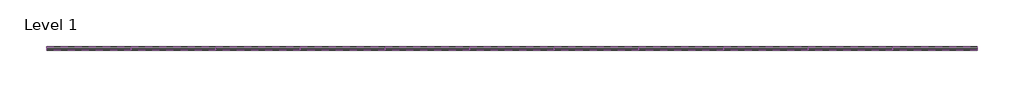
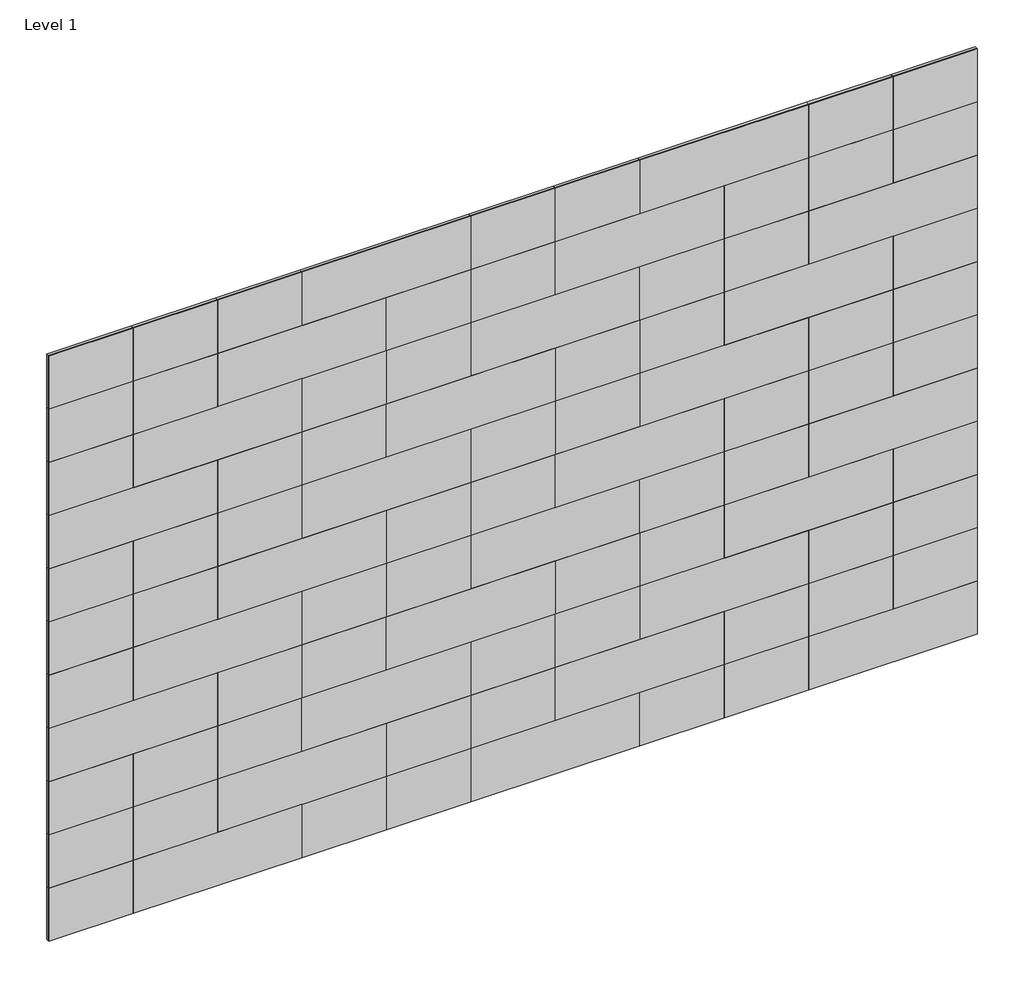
# One storey: 94 proxies.
"""IFC4 building model written with IfcOpenShell, lengths in millimetres."""

from ifc_helpers import new_model, si_unit, origin, place, context, project, spatial, transform, mapped, element, save
from components import specialty_equipment_d1af641a, specialty_equipment_1684c698

model = new_model("IFC4")

# Units and contexts
model_context = context("Model", 3, world=origin())
ifc_project = project(units=[si_unit("LENGTHUNIT", "METRE", prefix="MILLI")], contexts=[model_context])

# Site, building, storey
site = spatial("IfcSite", under=ifc_project)
building = spatial("IfcBuilding", under=site)
storey = spatial("IfcBuildingStorey", under=building, Name="Level 1", Elevation=0.0)

# Proxies
placement = place(None, origin())
specialty_equipment_shape = specialty_equipment_d1af641a(model_context)
element("IfcBuildingElementProxy", 1, Name="FilzFelt_Rectangle A_Block : Rectangle A = 2’-0” x 8” (61 x 20.3 cm)", ObjectType="FilzFelt_Rectangle A_Block : Rectangle A = 2’-0” x 8” (61 x 20.3 cm)", at=placement, inside=storey, context=model_context, shape_type="MappedRepresentation", body=[
    mapped(specialty_equipment_shape, transform((38586.9097905, 3946.8352795, 2540.0), x_axis=(1.0, 0.0, 0.0), y_axis=(0.0, 0.0, 1.0), z_axis=(0.0, -1.0, 0.0))),
])
element("IfcBuildingElementProxy", 2, Name="FilzFelt_Rectangle A_Block : Rectangle A = 2’-0” x 8” (61 x 20.3 cm)", ObjectType="FilzFelt_Rectangle A_Block : Rectangle A = 2’-0” x 8” (61 x 20.3 cm)", at=placement, inside=storey, context=model_context, shape_type="MappedRepresentation", body=[
    mapped(specialty_equipment_shape, transform((40110.9097905, 3946.8352795, 1930.4), x_axis=(1.0, 0.0, 0.0), y_axis=(0.0, 0.0, 1.0), z_axis=(0.0, -1.0, 0.0))),
])
element("IfcBuildingElementProxy", 3, Name="FilzFelt_Rectangle A_Block : Rectangle A = 2’-0” x 8” (61 x 20.3 cm)", ObjectType="FilzFelt_Rectangle A_Block : Rectangle A = 2’-0” x 8” (61 x 20.3 cm)", at=placement, inside=storey, context=model_context, shape_type="MappedRepresentation", body=[
    mapped(specialty_equipment_shape, transform((37672.5097905, 3946.8352795, 1930.4), x_axis=(1.0, 0.0, 0.0), y_axis=(0.0, 0.0, 1.0), z_axis=(0.0, -1.0, 0.0))),
])
element("IfcBuildingElementProxy", 4, Name="FilzFelt_Rectangle A_Block : Rectangle A = 2’-0” x 8” (61 x 20.3 cm)", ObjectType="FilzFelt_Rectangle A_Block : Rectangle A = 2’-0” x 8” (61 x 20.3 cm)", at=placement, inside=storey, context=model_context, shape_type="MappedRepresentation", body=[
    mapped(specialty_equipment_shape, transform((38282.1097905, 3946.8352795, 1524.0), x_axis=(1.0, 0.0, 0.0), y_axis=(0.0, 0.0, 1.0), z_axis=(0.0, -1.0, 0.0))),
])
element("IfcBuildingElementProxy", 5, Name="FilzFelt_Rectangle A_Block : Rectangle A = 2’-0” x 8” (61 x 20.3 cm)", ObjectType="FilzFelt_Rectangle A_Block : Rectangle A = 2’-0” x 8” (61 x 20.3 cm)", at=placement, inside=storey, context=model_context, shape_type="MappedRepresentation", body=[
    mapped(specialty_equipment_shape, transform((40110.9097905, 3946.8352795, 1117.6), x_axis=(1.0, 0.0, 0.0), y_axis=(0.0, 0.0, 1.0), z_axis=(0.0, -1.0, 0.0))),
])
element("IfcBuildingElementProxy", 6, Name="FilzFelt_Rectangle A_Block : Rectangle A = 2’-0” x 8” (61 x 20.3 cm)", ObjectType="FilzFelt_Rectangle A_Block : Rectangle A = 2’-0” x 8” (61 x 20.3 cm)", at=placement, inside=storey, context=model_context, shape_type="MappedRepresentation", body=[
    mapped(specialty_equipment_shape, transform((38282.1097905, 3946.8352795, 711.2), x_axis=(1.0, 0.0, 0.0), y_axis=(0.0, 0.0, 1.0), z_axis=(0.0, -1.0, 0.0))),
])
specialty_equipment_2_shape = specialty_equipment_1684c698(model_context)
element("IfcBuildingElementProxy", 7, Name="FilzFelt_Rectangle B_Block : Rectangle B = 1’-0” x 8” (30.5 x 20.3 cm)", ObjectType="FilzFelt_Rectangle B_Block : Rectangle B = 1’-0” x 8” (30.5 x 20.3 cm)", at=placement, inside=storey, context=model_context, shape_type="MappedRepresentation", body=[
    mapped(specialty_equipment_2_shape, transform((39348.9097905, 3946.8352795, 2540.0), x_axis=(1.0, 0.0, 0.0), y_axis=(0.0, 0.0, 1.0), z_axis=(0.0, -1.0, 0.0))),
])
element("IfcBuildingElementProxy", 8, Name="FilzFelt_Rectangle B_Block : Rectangle B = 1’-0” x 8” (30.5 x 20.3 cm)", ObjectType="FilzFelt_Rectangle B_Block : Rectangle B = 1’-0” x 8” (30.5 x 20.3 cm)", at=placement, inside=storey, context=model_context, shape_type="MappedRepresentation", body=[
    mapped(specialty_equipment_2_shape, transform((37824.9097905, 3946.8352795, 2540.0), x_axis=(1.0, 0.0, 0.0), y_axis=(0.0, 0.0, 1.0), z_axis=(0.0, -1.0, 0.0))),
])
element("IfcBuildingElementProxy", 9, Name="FilzFelt_Rectangle B_Block : Rectangle B = 1’-0” x 8” (30.5 x 20.3 cm)", ObjectType="FilzFelt_Rectangle B_Block : Rectangle B = 1’-0” x 8” (30.5 x 20.3 cm)", at=placement, inside=storey, context=model_context, shape_type="MappedRepresentation", body=[
    mapped(specialty_equipment_2_shape, transform((40568.1097905, 3946.8352795, 2336.8), x_axis=(1.0, 0.0, 0.0), y_axis=(0.0, 0.0, 1.0), z_axis=(0.0, -1.0, 0.0))),
])
element("IfcBuildingElementProxy", 10, Name="FilzFelt_Rectangle B_Block : Rectangle B = 1’-0” x 8” (30.5 x 20.3 cm)", ObjectType="FilzFelt_Rectangle B_Block : Rectangle B = 1’-0” x 8” (30.5 x 20.3 cm)", at=placement, inside=storey, context=model_context, shape_type="MappedRepresentation", body=[
    mapped(specialty_equipment_2_shape, transform((39958.5097905, 3946.8352795, 2336.8), x_axis=(1.0, 0.0, 0.0), y_axis=(0.0, 0.0, 1.0), z_axis=(0.0, -1.0, 0.0))),
])
element("IfcBuildingElementProxy", 11, Name="FilzFelt_Rectangle B_Block : Rectangle B = 1’-0” x 8” (30.5 x 20.3 cm)", ObjectType="FilzFelt_Rectangle B_Block : Rectangle B = 1’-0” x 8” (30.5 x 20.3 cm)", at=placement, inside=storey, context=model_context, shape_type="MappedRepresentation", body=[
    mapped(specialty_equipment_2_shape, transform((39044.1097905, 3946.8352795, 2336.8), x_axis=(1.0, 0.0, 0.0), y_axis=(0.0, 0.0, 1.0), z_axis=(0.0, -1.0, 0.0))),
])
element("IfcBuildingElementProxy", 12, Name="FilzFelt_Rectangle B_Block : Rectangle B = 1’-0” x 8” (30.5 x 20.3 cm)", ObjectType="FilzFelt_Rectangle B_Block : Rectangle B = 1’-0” x 8” (30.5 x 20.3 cm)", at=placement, inside=storey, context=model_context, shape_type="MappedRepresentation", body=[
    mapped(specialty_equipment_2_shape, transform((37520.1097905, 3946.8352795, 2336.8), x_axis=(1.0, 0.0, 0.0), y_axis=(0.0, 0.0, 1.0), z_axis=(0.0, -1.0, 0.0))),
])
element("IfcBuildingElementProxy", 13, Name="FilzFelt_Rectangle B_Block : Rectangle B = 1’-0” x 8” (30.5 x 20.3 cm)", ObjectType="FilzFelt_Rectangle B_Block : Rectangle B = 1’-0” x 8” (30.5 x 20.3 cm)", at=placement, inside=storey, context=model_context, shape_type="MappedRepresentation", body=[
    mapped(specialty_equipment_2_shape, transform((38739.3097905, 3946.8352795, 2133.6), x_axis=(1.0, 0.0, 0.0), y_axis=(0.0, 0.0, 1.0), z_axis=(0.0, -1.0, 0.0))),
])
element("IfcBuildingElementProxy", 14, Name="FilzFelt_Rectangle B_Block : Rectangle B = 1’-0” x 8” (30.5 x 20.3 cm)", ObjectType="FilzFelt_Rectangle B_Block : Rectangle B = 1’-0” x 8” (30.5 x 20.3 cm)", at=placement, inside=storey, context=model_context, shape_type="MappedRepresentation", body=[
    mapped(specialty_equipment_2_shape, transform((40263.3097905, 3946.8352795, 2540.0), x_axis=(1.0, 0.0, 0.0), y_axis=(0.0, 0.0, 1.0), z_axis=(0.0, -1.0, 0.0))),
])
element("IfcBuildingElementProxy", 15, Name="FilzFelt_Rectangle B_Block : Rectangle B = 1’-0” x 8” (30.5 x 20.3 cm)", ObjectType="FilzFelt_Rectangle B_Block : Rectangle B = 1’-0” x 8” (30.5 x 20.3 cm)", at=placement, inside=storey, context=model_context, shape_type="MappedRepresentation", body=[
    mapped(specialty_equipment_2_shape, transform((39348.9097905, 3946.8352795, 1930.4), x_axis=(1.0, 0.0, 0.0), y_axis=(0.0, 0.0, 1.0), z_axis=(0.0, -1.0, 0.0))),
])
element("IfcBuildingElementProxy", 16, Name="FilzFelt_Rectangle B_Block : Rectangle B = 1’-0” x 8” (30.5 x 20.3 cm)", ObjectType="FilzFelt_Rectangle B_Block : Rectangle B = 1’-0” x 8” (30.5 x 20.3 cm)", at=placement, inside=storey, context=model_context, shape_type="MappedRepresentation", body=[
    mapped(specialty_equipment_2_shape, transform((38434.5097905, 3946.8352795, 1930.4), x_axis=(1.0, 0.0, 0.0), y_axis=(0.0, 0.0, 1.0), z_axis=(0.0, -1.0, 0.0))),
])
element("IfcBuildingElementProxy", 17, Name="FilzFelt_Rectangle B_Block : Rectangle B = 1’-0” x 8” (30.5 x 20.3 cm)", ObjectType="FilzFelt_Rectangle B_Block : Rectangle B = 1’-0” x 8” (30.5 x 20.3 cm)", at=placement, inside=storey, context=model_context, shape_type="MappedRepresentation", body=[
    mapped(specialty_equipment_2_shape, transform((39044.1097905, 3946.8352795, 1727.2), x_axis=(1.0, 0.0, 0.0), y_axis=(0.0, 0.0, 1.0), z_axis=(0.0, -1.0, 0.0))),
])
element("IfcBuildingElementProxy", 18, Name="FilzFelt_Rectangle B_Block : Rectangle B = 1’-0” x 8” (30.5 x 20.3 cm)", ObjectType="FilzFelt_Rectangle B_Block : Rectangle B = 1’-0” x 8” (30.5 x 20.3 cm)", at=placement, inside=storey, context=model_context, shape_type="MappedRepresentation", body=[
    mapped(specialty_equipment_2_shape, transform((40568.1097905, 3946.8352795, 1524.0), x_axis=(1.0, 0.0, 0.0), y_axis=(0.0, 0.0, 1.0), z_axis=(0.0, -1.0, 0.0))),
])
element("IfcBuildingElementProxy", 19, Name="FilzFelt_Rectangle B_Block : Rectangle B = 1’-0” x 8” (30.5 x 20.3 cm)", ObjectType="FilzFelt_Rectangle B_Block : Rectangle B = 1’-0” x 8” (30.5 x 20.3 cm)", at=placement, inside=storey, context=model_context, shape_type="MappedRepresentation", body=[
    mapped(specialty_equipment_2_shape, transform((38739.3097905, 3946.8352795, 1320.8), x_axis=(1.0, 0.0, 0.0), y_axis=(0.0, 0.0, 1.0), z_axis=(0.0, -1.0, 0.0))),
])
element("IfcBuildingElementProxy", 20, Name="FilzFelt_Rectangle B_Block : Rectangle B = 1’-0” x 8” (30.5 x 20.3 cm)", ObjectType="FilzFelt_Rectangle B_Block : Rectangle B = 1’-0” x 8” (30.5 x 20.3 cm)", at=placement, inside=storey, context=model_context, shape_type="MappedRepresentation", body=[
    mapped(specialty_equipment_2_shape, transform((39958.5097905, 3946.8352795, 1320.8), x_axis=(1.0, 0.0, 0.0), y_axis=(0.0, 0.0, 1.0), z_axis=(0.0, -1.0, 0.0))),
])
element("IfcBuildingElementProxy", 21, Name="FilzFelt_Rectangle B_Block : Rectangle B = 1’-0” x 8” (30.5 x 20.3 cm)", ObjectType="FilzFelt_Rectangle B_Block : Rectangle B = 1’-0” x 8” (30.5 x 20.3 cm)", at=placement, inside=storey, context=model_context, shape_type="MappedRepresentation", body=[
    mapped(specialty_equipment_2_shape, transform((39044.1097905, 3946.8352795, 1524.0), x_axis=(1.0, 0.0, 0.0), y_axis=(0.0, 0.0, 1.0), z_axis=(0.0, -1.0, 0.0))),
])
element("IfcBuildingElementProxy", 22, Name="FilzFelt_Rectangle B_Block : Rectangle B = 1’-0” x 8” (30.5 x 20.3 cm)", ObjectType="FilzFelt_Rectangle B_Block : Rectangle B = 1’-0” x 8” (30.5 x 20.3 cm)", at=placement, inside=storey, context=model_context, shape_type="MappedRepresentation", body=[
    mapped(specialty_equipment_2_shape, transform((37520.1097905, 3946.8352795, 1524.0), x_axis=(1.0, 0.0, 0.0), y_axis=(0.0, 0.0, 1.0), z_axis=(0.0, -1.0, 0.0))),
])
element("IfcBuildingElementProxy", 23, Name="FilzFelt_Rectangle B_Block : Rectangle B = 1’-0” x 8” (30.5 x 20.3 cm)", ObjectType="FilzFelt_Rectangle B_Block : Rectangle B = 1’-0” x 8” (30.5 x 20.3 cm)", at=placement, inside=storey, context=model_context, shape_type="MappedRepresentation", body=[
    mapped(specialty_equipment_2_shape, transform((39653.7097905, 3946.8352795, 1117.6), x_axis=(1.0, 0.0, 0.0), y_axis=(0.0, 0.0, 1.0), z_axis=(0.0, -1.0, 0.0))),
])
element("IfcBuildingElementProxy", 24, Name="FilzFelt_Rectangle B_Block : Rectangle B = 1’-0” x 8” (30.5 x 20.3 cm)", ObjectType="FilzFelt_Rectangle B_Block : Rectangle B = 1’-0” x 8” (30.5 x 20.3 cm)", at=placement, inside=storey, context=model_context, shape_type="MappedRepresentation", body=[
    mapped(specialty_equipment_2_shape, transform((38434.5097905, 3946.8352795, 1117.6), x_axis=(1.0, 0.0, 0.0), y_axis=(0.0, 0.0, 1.0), z_axis=(0.0, -1.0, 0.0))),
])
element("IfcBuildingElementProxy", 25, Name="FilzFelt_Rectangle B_Block : Rectangle B = 1’-0” x 8” (30.5 x 20.3 cm)", ObjectType="FilzFelt_Rectangle B_Block : Rectangle B = 1’-0” x 8” (30.5 x 20.3 cm)", at=placement, inside=storey, context=model_context, shape_type="MappedRepresentation", body=[
    mapped(specialty_equipment_2_shape, transform((39348.9097905, 3946.8352795, 914.4), x_axis=(1.0, 0.0, 0.0), y_axis=(0.0, 0.0, 1.0), z_axis=(0.0, -1.0, 0.0))),
])
element("IfcBuildingElementProxy", 26, Name="FilzFelt_Rectangle B_Block : Rectangle B = 1’-0” x 8” (30.5 x 20.3 cm)", ObjectType="FilzFelt_Rectangle B_Block : Rectangle B = 1’-0” x 8” (30.5 x 20.3 cm)", at=placement, inside=storey, context=model_context, shape_type="MappedRepresentation", body=[
    mapped(specialty_equipment_2_shape, transform((37824.9097905, 3946.8352795, 914.4), x_axis=(1.0, 0.0, 0.0), y_axis=(0.0, 0.0, 1.0), z_axis=(0.0, -1.0, 0.0))),
])
element("IfcBuildingElementProxy", 27, Name="FilzFelt_Rectangle B_Block : Rectangle B = 1’-0” x 8” (30.5 x 20.3 cm)", ObjectType="FilzFelt_Rectangle B_Block : Rectangle B = 1’-0” x 8” (30.5 x 20.3 cm)", at=placement, inside=storey, context=model_context, shape_type="MappedRepresentation", body=[
    mapped(specialty_equipment_2_shape, transform((40568.1097905, 3946.8352795, 914.4), x_axis=(1.0, 0.0, 0.0), y_axis=(0.0, 0.0, 1.0), z_axis=(0.0, -1.0, 0.0))),
])
element("IfcBuildingElementProxy", 28, Name="FilzFelt_Rectangle B_Block : Rectangle B = 1’-0” x 8” (30.5 x 20.3 cm)", ObjectType="FilzFelt_Rectangle B_Block : Rectangle B = 1’-0” x 8” (30.5 x 20.3 cm)", at=placement, inside=storey, context=model_context, shape_type="MappedRepresentation", body=[
    mapped(specialty_equipment_2_shape, transform((40263.3097905, 3946.8352795, 711.2), x_axis=(1.0, 0.0, 0.0), y_axis=(0.0, 0.0, 1.0), z_axis=(0.0, -1.0, 0.0))),
])
element("IfcBuildingElementProxy", 29, Name="FilzFelt_Rectangle B_Block : Rectangle B = 1’-0” x 8” (30.5 x 20.3 cm)", ObjectType="FilzFelt_Rectangle B_Block : Rectangle B = 1’-0” x 8” (30.5 x 20.3 cm)", at=placement, inside=storey, context=model_context, shape_type="MappedRepresentation", body=[
    mapped(specialty_equipment_2_shape, transform((39958.5097905, 3946.8352795, 711.2), x_axis=(1.0, 0.0, 0.0), y_axis=(0.0, 0.0, 1.0), z_axis=(0.0, -1.0, 0.0))),
])
element("IfcBuildingElementProxy", 30, Name="FilzFelt_Rectangle B_Block : Rectangle B = 1’-0” x 8” (30.5 x 20.3 cm)", ObjectType="FilzFelt_Rectangle B_Block : Rectangle B = 1’-0” x 8” (30.5 x 20.3 cm)", at=placement, inside=storey, context=model_context, shape_type="MappedRepresentation", body=[
    mapped(specialty_equipment_2_shape, transform((39044.1097905, 3946.8352795, 711.2), x_axis=(1.0, 0.0, 0.0), y_axis=(0.0, 0.0, 1.0), z_axis=(0.0, -1.0, 0.0))),
])
element("IfcBuildingElementProxy", 31, Name="FilzFelt_Rectangle B_Block : Rectangle B = 1’-0” x 8” (30.5 x 20.3 cm)", ObjectType="FilzFelt_Rectangle B_Block : Rectangle B = 1’-0” x 8” (30.5 x 20.3 cm)", at=placement, inside=storey, context=model_context, shape_type="MappedRepresentation", body=[
    mapped(specialty_equipment_2_shape, transform((37520.1097905, 3946.8352795, 711.2), x_axis=(1.0, 0.0, 0.0), y_axis=(0.0, 0.0, 1.0), z_axis=(0.0, -1.0, 0.0))),
])
element("IfcBuildingElementProxy", 32, Name="FilzFelt_Rectangle B_Block : Rectangle B = 1’-0” x 8” (30.5 x 20.3 cm)", ObjectType="FilzFelt_Rectangle B_Block : Rectangle B = 1’-0” x 8” (30.5 x 20.3 cm)", at=placement, inside=storey, context=model_context, shape_type="MappedRepresentation", body=[
    mapped(specialty_equipment_2_shape, transform((38739.3097905, 3946.8352795, 508.0), x_axis=(1.0, 0.0, 0.0), y_axis=(0.0, 0.0, 1.0), z_axis=(0.0, -1.0, 0.0))),
])
element("IfcBuildingElementProxy", 33, Name="FilzFelt_Rectangle B_Block : Rectangle B = 1’-0” x 8” (30.5 x 20.3 cm)", ObjectType="FilzFelt_Rectangle B_Block : Rectangle B = 1’-0” x 8” (30.5 x 20.3 cm)", at=placement, inside=storey, context=model_context, shape_type="MappedRepresentation", body=[
    mapped(specialty_equipment_2_shape, transform((39653.7097905, 3946.8352795, 508.0), x_axis=(1.0, 0.0, 0.0), y_axis=(0.0, 0.0, 1.0), z_axis=(0.0, -1.0, 0.0))),
])
element("IfcBuildingElementProxy", 34, Name="FilzFelt_Rectangle B_Block : Rectangle B = 1’-0” x 8” (30.5 x 20.3 cm)", ObjectType="FilzFelt_Rectangle B_Block : Rectangle B = 1’-0” x 8” (30.5 x 20.3 cm)", at=placement, inside=storey, context=model_context, shape_type="MappedRepresentation", body=[
    mapped(specialty_equipment_2_shape, transform((38129.7097905, 3946.8352795, 2540.0), x_axis=(1.0, 0.0, 0.0), y_axis=(0.0, 0.0, 1.0), z_axis=(0.0, -1.0, 0.0))),
])
element("IfcBuildingElementProxy", 35, Name="FilzFelt_Rectangle B_Block : Rectangle B = 1’-0” x 8” (30.5 x 20.3 cm)", ObjectType="FilzFelt_Rectangle B_Block : Rectangle B = 1’-0” x 8” (30.5 x 20.3 cm)", at=placement, inside=storey, context=model_context, shape_type="MappedRepresentation", body=[
    mapped(specialty_equipment_2_shape, transform((40568.1097905, 3946.8352795, 2540.0), x_axis=(1.0, 0.0, 0.0), y_axis=(0.0, 0.0, 1.0), z_axis=(0.0, -1.0, 0.0))),
])
element("IfcBuildingElementProxy", 36, Name="FilzFelt_Rectangle B_Block : Rectangle B = 1’-0” x 8” (30.5 x 20.3 cm)", ObjectType="FilzFelt_Rectangle B_Block : Rectangle B = 1’-0” x 8” (30.5 x 20.3 cm)", at=placement, inside=storey, context=model_context, shape_type="MappedRepresentation", body=[
    mapped(specialty_equipment_2_shape, transform((39044.1097905, 3946.8352795, 2540.0), x_axis=(1.0, 0.0, 0.0), y_axis=(0.0, 0.0, 1.0), z_axis=(0.0, -1.0, 0.0))),
])
element("IfcBuildingElementProxy", 37, Name="FilzFelt_Rectangle B_Block : Rectangle B = 1’-0” x 8” (30.5 x 20.3 cm)", ObjectType="FilzFelt_Rectangle B_Block : Rectangle B = 1’-0” x 8” (30.5 x 20.3 cm)", at=placement, inside=storey, context=model_context, shape_type="MappedRepresentation", body=[
    mapped(specialty_equipment_2_shape, transform((37520.1097905, 3946.8352795, 2133.6), x_axis=(1.0, 0.0, 0.0), y_axis=(0.0, 0.0, 1.0), z_axis=(0.0, -1.0, 0.0))),
])
element("IfcBuildingElementProxy", 38, Name="FilzFelt_Rectangle B_Block : Rectangle B = 1’-0” x 8” (30.5 x 20.3 cm)", ObjectType="FilzFelt_Rectangle B_Block : Rectangle B = 1’-0” x 8” (30.5 x 20.3 cm)", at=placement, inside=storey, context=model_context, shape_type="MappedRepresentation", body=[
    mapped(specialty_equipment_2_shape, transform((38434.5097905, 3946.8352795, 2133.6), x_axis=(1.0, 0.0, 0.0), y_axis=(0.0, 0.0, 1.0), z_axis=(0.0, -1.0, 0.0))),
])
element("IfcBuildingElementProxy", 39, Name="FilzFelt_Rectangle B_Block : Rectangle B = 1’-0” x 8” (30.5 x 20.3 cm)", ObjectType="FilzFelt_Rectangle B_Block : Rectangle B = 1’-0” x 8” (30.5 x 20.3 cm)", at=placement, inside=storey, context=model_context, shape_type="MappedRepresentation", body=[
    mapped(specialty_equipment_2_shape, transform((39958.5097905, 3946.8352795, 2133.6), x_axis=(1.0, 0.0, 0.0), y_axis=(0.0, 0.0, 1.0), z_axis=(0.0, -1.0, 0.0))),
])
element("IfcBuildingElementProxy", 40, Name="FilzFelt_Rectangle B_Block : Rectangle B = 1’-0” x 8” (30.5 x 20.3 cm)", ObjectType="FilzFelt_Rectangle B_Block : Rectangle B = 1’-0” x 8” (30.5 x 20.3 cm)", at=placement, inside=storey, context=model_context, shape_type="MappedRepresentation", body=[
    mapped(specialty_equipment_2_shape, transform((40568.1097905, 3946.8352795, 1930.4), x_axis=(1.0, 0.0, 0.0), y_axis=(0.0, 0.0, 1.0), z_axis=(0.0, -1.0, 0.0))),
])
element("IfcBuildingElementProxy", 41, Name="FilzFelt_Rectangle B_Block : Rectangle B = 1’-0” x 8” (30.5 x 20.3 cm)", ObjectType="FilzFelt_Rectangle B_Block : Rectangle B = 1’-0” x 8” (30.5 x 20.3 cm)", at=placement, inside=storey, context=model_context, shape_type="MappedRepresentation", body=[
    mapped(specialty_equipment_2_shape, transform((38129.7097905, 3946.8352795, 1930.4), x_axis=(1.0, 0.0, 0.0), y_axis=(0.0, 0.0, 1.0), z_axis=(0.0, -1.0, 0.0))),
])
element("IfcBuildingElementProxy", 42, Name="FilzFelt_Rectangle B_Block : Rectangle B = 1’-0” x 8” (30.5 x 20.3 cm)", ObjectType="FilzFelt_Rectangle B_Block : Rectangle B = 1’-0” x 8” (30.5 x 20.3 cm)", at=placement, inside=storey, context=model_context, shape_type="MappedRepresentation", body=[
    mapped(specialty_equipment_2_shape, transform((39958.5097905, 3946.8352795, 1524.0), x_axis=(1.0, 0.0, 0.0), y_axis=(0.0, 0.0, 1.0), z_axis=(0.0, -1.0, 0.0))),
])
element("IfcBuildingElementProxy", 43, Name="FilzFelt_Rectangle B_Block : Rectangle B = 1’-0” x 8” (30.5 x 20.3 cm)", ObjectType="FilzFelt_Rectangle B_Block : Rectangle B = 1’-0” x 8” (30.5 x 20.3 cm)", at=placement, inside=storey, context=model_context, shape_type="MappedRepresentation", body=[
    mapped(specialty_equipment_2_shape, transform((37824.9097905, 3946.8352795, 1524.0), x_axis=(1.0, 0.0, 0.0), y_axis=(0.0, 0.0, 1.0), z_axis=(0.0, -1.0, 0.0))),
])
element("IfcBuildingElementProxy", 44, Name="FilzFelt_Rectangle B_Block : Rectangle B = 1’-0” x 8” (30.5 x 20.3 cm)", ObjectType="FilzFelt_Rectangle B_Block : Rectangle B = 1’-0” x 8” (30.5 x 20.3 cm)", at=placement, inside=storey, context=model_context, shape_type="MappedRepresentation", body=[
    mapped(specialty_equipment_2_shape, transform((39348.9097905, 3946.8352795, 1117.6), x_axis=(1.0, 0.0, 0.0), y_axis=(0.0, 0.0, 1.0), z_axis=(0.0, -1.0, 0.0))),
])
element("IfcBuildingElementProxy", 45, Name="FilzFelt_Rectangle B_Block : Rectangle B = 1’-0” x 8” (30.5 x 20.3 cm)", ObjectType="FilzFelt_Rectangle B_Block : Rectangle B = 1’-0” x 8” (30.5 x 20.3 cm)", at=placement, inside=storey, context=model_context, shape_type="MappedRepresentation", body=[
    mapped(specialty_equipment_2_shape, transform((40263.3097905, 3946.8352795, 914.4), x_axis=(1.0, 0.0, 0.0), y_axis=(0.0, 0.0, 1.0), z_axis=(0.0, -1.0, 0.0))),
])
element("IfcBuildingElementProxy", 46, Name="FilzFelt_Rectangle B_Block : Rectangle B = 1’-0” x 8” (30.5 x 20.3 cm)", ObjectType="FilzFelt_Rectangle B_Block : Rectangle B = 1’-0” x 8” (30.5 x 20.3 cm)", at=placement, inside=storey, context=model_context, shape_type="MappedRepresentation", body=[
    mapped(specialty_equipment_2_shape, transform((37824.9097905, 3946.8352795, 711.2), x_axis=(1.0, 0.0, 0.0), y_axis=(0.0, 0.0, 1.0), z_axis=(0.0, -1.0, 0.0))),
])
element("IfcBuildingElementProxy", 47, Name="FilzFelt_Rectangle B_Block : Rectangle B = 1’-0” x 8” (30.5 x 20.3 cm)", ObjectType="FilzFelt_Rectangle B_Block : Rectangle B = 1’-0” x 8” (30.5 x 20.3 cm)", at=placement, inside=storey, context=model_context, shape_type="MappedRepresentation", body=[
    mapped(specialty_equipment_2_shape, transform((38434.5097905, 3946.8352795, 508.0), x_axis=(1.0, 0.0, 0.0), y_axis=(0.0, 0.0, 1.0), z_axis=(0.0, -1.0, 0.0))),
])
element("IfcBuildingElementProxy", 48, Name="FilzFelt_Rectangle B_Block : Rectangle B = 1’-0” x 8” (30.5 x 20.3 cm)", ObjectType="FilzFelt_Rectangle B_Block : Rectangle B = 1’-0” x 8” (30.5 x 20.3 cm)", at=placement, inside=storey, context=model_context, shape_type="MappedRepresentation", body=[
    mapped(specialty_equipment_2_shape, transform((39958.5097905, 3946.8352795, 508.0), x_axis=(1.0, 0.0, 0.0), y_axis=(0.0, 0.0, 1.0), z_axis=(0.0, -1.0, 0.0))),
])
element("IfcBuildingElementProxy", 49, Name="FilzFelt_Rectangle A_Block : Rectangle A = 2’-0” x 8” (61 x 20.3 cm)", ObjectType="FilzFelt_Rectangle A_Block : Rectangle A = 2’-0” x 8” (61 x 20.3 cm)", at=placement, inside=storey, context=model_context, shape_type="MappedRepresentation", body=[
    mapped(specialty_equipment_shape, transform((38282.1097905, 3946.8352795, 2336.8), x_axis=(1.0, 0.0, 0.0), y_axis=(0.0, 0.0, 1.0), z_axis=(0.0, -1.0, 0.0))),
])
element("IfcBuildingElementProxy", 50, Name="FilzFelt_Rectangle A_Block : Rectangle A = 2’-0” x 8” (61 x 20.3 cm)", ObjectType="FilzFelt_Rectangle A_Block : Rectangle A = 2’-0” x 8” (61 x 20.3 cm)", at=placement, inside=storey, context=model_context, shape_type="MappedRepresentation", body=[
    mapped(specialty_equipment_shape, transform((39196.5097905, 3946.8352795, 2133.6), x_axis=(1.0, 0.0, 0.0), y_axis=(0.0, 0.0, 1.0), z_axis=(0.0, -1.0, 0.0))),
])
element("IfcBuildingElementProxy", 51, Name="FilzFelt_Rectangle A_Block : Rectangle A = 2’-0” x 8” (61 x 20.3 cm)", ObjectType="FilzFelt_Rectangle A_Block : Rectangle A = 2’-0” x 8” (61 x 20.3 cm)", at=placement, inside=storey, context=model_context, shape_type="MappedRepresentation", body=[
    mapped(specialty_equipment_shape, transform((38586.9097905, 3946.8352795, 1727.2), x_axis=(1.0, 0.0, 0.0), y_axis=(0.0, 0.0, 1.0), z_axis=(0.0, -1.0, 0.0))),
])
element("IfcBuildingElementProxy", 52, Name="FilzFelt_Rectangle A_Block : Rectangle A = 2’-0” x 8” (61 x 20.3 cm)", ObjectType="FilzFelt_Rectangle A_Block : Rectangle A = 2’-0” x 8” (61 x 20.3 cm)", at=placement, inside=storey, context=model_context, shape_type="MappedRepresentation", body=[
    mapped(specialty_equipment_shape, transform((39806.1097905, 3946.8352795, 1727.2), x_axis=(1.0, 0.0, 0.0), y_axis=(0.0, 0.0, 1.0), z_axis=(0.0, -1.0, 0.0))),
])
element("IfcBuildingElementProxy", 53, Name="FilzFelt_Rectangle A_Block : Rectangle A = 2’-0” x 8” (61 x 20.3 cm)", ObjectType="FilzFelt_Rectangle A_Block : Rectangle A = 2’-0” x 8” (61 x 20.3 cm)", at=placement, inside=storey, context=model_context, shape_type="MappedRepresentation", body=[
    mapped(specialty_equipment_shape, transform((37977.3097905, 3946.8352795, 1320.8), x_axis=(1.0, 0.0, 0.0), y_axis=(0.0, 0.0, 1.0), z_axis=(0.0, -1.0, 0.0))),
])
element("IfcBuildingElementProxy", 54, Name="FilzFelt_Rectangle A_Block : Rectangle A = 2’-0” x 8” (61 x 20.3 cm)", ObjectType="FilzFelt_Rectangle A_Block : Rectangle A = 2’-0” x 8” (61 x 20.3 cm)", at=placement, inside=storey, context=model_context, shape_type="MappedRepresentation", body=[
    mapped(specialty_equipment_shape, transform((40415.7097905, 3946.8352795, 1320.8), x_axis=(1.0, 0.0, 0.0), y_axis=(0.0, 0.0, 1.0), z_axis=(0.0, -1.0, 0.0))),
])
element("IfcBuildingElementProxy", 55, Name="FilzFelt_Rectangle A_Block : Rectangle A = 2’-0” x 8” (61 x 20.3 cm)", ObjectType="FilzFelt_Rectangle A_Block : Rectangle A = 2’-0” x 8” (61 x 20.3 cm)", at=placement, inside=storey, context=model_context, shape_type="MappedRepresentation", body=[
    mapped(specialty_equipment_shape, transform((38586.9097905, 3946.8352795, 914.4), x_axis=(1.0, 0.0, 0.0), y_axis=(0.0, 0.0, 1.0), z_axis=(0.0, -1.0, 0.0))),
])
element("IfcBuildingElementProxy", 56, Name="FilzFelt_Rectangle A_Block : Rectangle A = 2’-0” x 8” (61 x 20.3 cm)", ObjectType="FilzFelt_Rectangle A_Block : Rectangle A = 2’-0” x 8” (61 x 20.3 cm)", at=placement, inside=storey, context=model_context, shape_type="MappedRepresentation", body=[
    mapped(specialty_equipment_shape, transform((39501.3097905, 3946.8352795, 711.2), x_axis=(1.0, 0.0, 0.0), y_axis=(0.0, 0.0, 1.0), z_axis=(0.0, -1.0, 0.0))),
])
element("IfcBuildingElementProxy", 57, Name="FilzFelt_Rectangle A_Block : Rectangle A = 2’-0” x 8” (61 x 20.3 cm)", ObjectType="FilzFelt_Rectangle A_Block : Rectangle A = 2’-0” x 8” (61 x 20.3 cm)", at=placement, inside=storey, context=model_context, shape_type="MappedRepresentation", body=[
    mapped(specialty_equipment_shape, transform((39806.1097905, 3946.8352795, 2540.0), x_axis=(1.0, 0.0, 0.0), y_axis=(0.0, 0.0, 1.0), z_axis=(0.0, -1.0, 0.0))),
])
element("IfcBuildingElementProxy", 58, Name="FilzFelt_Rectangle A_Block : Rectangle A = 2’-0” x 8” (61 x 20.3 cm)", ObjectType="FilzFelt_Rectangle A_Block : Rectangle A = 2’-0” x 8” (61 x 20.3 cm)", at=placement, inside=storey, context=model_context, shape_type="MappedRepresentation", body=[
    mapped(specialty_equipment_shape, transform((40415.7097905, 3946.8352795, 2133.6), x_axis=(1.0, 0.0, 0.0), y_axis=(0.0, 0.0, 1.0), z_axis=(0.0, -1.0, 0.0))),
])
element("IfcBuildingElementProxy", 59, Name="FilzFelt_Rectangle A_Block : Rectangle A = 2’-0” x 8” (61 x 20.3 cm)", ObjectType="FilzFelt_Rectangle A_Block : Rectangle A = 2’-0” x 8” (61 x 20.3 cm)", at=placement, inside=storey, context=model_context, shape_type="MappedRepresentation", body=[
    mapped(specialty_equipment_shape, transform((39501.3097905, 3946.8352795, 1524.0), x_axis=(1.0, 0.0, 0.0), y_axis=(0.0, 0.0, 1.0), z_axis=(0.0, -1.0, 0.0))),
])
element("IfcBuildingElementProxy", 60, Name="FilzFelt_Rectangle A_Block : Rectangle A = 2’-0” x 8” (61 x 20.3 cm)", ObjectType="FilzFelt_Rectangle A_Block : Rectangle A = 2’-0” x 8” (61 x 20.3 cm)", at=placement, inside=storey, context=model_context, shape_type="MappedRepresentation", body=[
    mapped(specialty_equipment_shape, transform((39196.5097905, 3946.8352795, 1320.8), x_axis=(1.0, 0.0, 0.0), y_axis=(0.0, 0.0, 1.0), z_axis=(0.0, -1.0, 0.0))),
])
element("IfcBuildingElementProxy", 61, Name="FilzFelt_Rectangle A_Block : Rectangle A = 2’-0” x 8” (61 x 20.3 cm)", ObjectType="FilzFelt_Rectangle A_Block : Rectangle A = 2’-0” x 8” (61 x 20.3 cm)", at=placement, inside=storey, context=model_context, shape_type="MappedRepresentation", body=[
    mapped(specialty_equipment_shape, transform((39806.1097905, 3946.8352795, 914.4), x_axis=(1.0, 0.0, 0.0), y_axis=(0.0, 0.0, 1.0), z_axis=(0.0, -1.0, 0.0))),
])
element("IfcBuildingElementProxy", 62, Name="FilzFelt_Rectangle A_Block : Rectangle A = 2’-0” x 8” (61 x 20.3 cm)", ObjectType="FilzFelt_Rectangle A_Block : Rectangle A = 2’-0” x 8” (61 x 20.3 cm)", at=placement, inside=storey, context=model_context, shape_type="MappedRepresentation", body=[
    mapped(specialty_equipment_shape, transform((37977.3097905, 3946.8352795, 508.0), x_axis=(1.0, 0.0, 0.0), y_axis=(0.0, 0.0, 1.0), z_axis=(0.0, -1.0, 0.0))),
])
element("IfcBuildingElementProxy", 63, Name="FilzFelt_Rectangle B_Block : Rectangle B = 1’-0” x 8” (30.5 x 20.3 cm)", ObjectType="FilzFelt_Rectangle B_Block : Rectangle B = 1’-0” x 8” (30.5 x 20.3 cm)", at=placement, inside=storey, context=model_context, shape_type="MappedRepresentation", body=[
    mapped(specialty_equipment_2_shape, transform((38739.3097905, 3946.8352795, 2336.8), x_axis=(1.0, 0.0, 0.0), y_axis=(0.0, 0.0, 1.0), z_axis=(0.0, -1.0, 0.0))),
])
element("IfcBuildingElementProxy", 64, Name="FilzFelt_Rectangle B_Block : Rectangle B = 1’-0” x 8” (30.5 x 20.3 cm)", ObjectType="FilzFelt_Rectangle B_Block : Rectangle B = 1’-0” x 8” (30.5 x 20.3 cm)", at=placement, inside=storey, context=model_context, shape_type="MappedRepresentation", body=[
    mapped(specialty_equipment_2_shape, transform((37824.9097905, 3946.8352795, 2336.8), x_axis=(1.0, 0.0, 0.0), y_axis=(0.0, 0.0, 1.0), z_axis=(0.0, -1.0, 0.0))),
])
element("IfcBuildingElementProxy", 65, Name="FilzFelt_Rectangle B_Block : Rectangle B = 1’-0” x 8” (30.5 x 20.3 cm)", ObjectType="FilzFelt_Rectangle B_Block : Rectangle B = 1’-0” x 8” (30.5 x 20.3 cm)", at=placement, inside=storey, context=model_context, shape_type="MappedRepresentation", body=[
    mapped(specialty_equipment_2_shape, transform((39653.7097905, 3946.8352795, 2133.6), x_axis=(1.0, 0.0, 0.0), y_axis=(0.0, 0.0, 1.0), z_axis=(0.0, -1.0, 0.0))),
])
element("IfcBuildingElementProxy", 66, Name="FilzFelt_Rectangle B_Block : Rectangle B = 1’-0” x 8” (30.5 x 20.3 cm)", ObjectType="FilzFelt_Rectangle B_Block : Rectangle B = 1’-0” x 8” (30.5 x 20.3 cm)", at=placement, inside=storey, context=model_context, shape_type="MappedRepresentation", body=[
    mapped(specialty_equipment_2_shape, transform((37520.1097905, 3946.8352795, 1727.2), x_axis=(1.0, 0.0, 0.0), y_axis=(0.0, 0.0, 1.0), z_axis=(0.0, -1.0, 0.0))),
])
element("IfcBuildingElementProxy", 67, Name="FilzFelt_Rectangle B_Block : Rectangle B = 1’-0” x 8” (30.5 x 20.3 cm)", ObjectType="FilzFelt_Rectangle B_Block : Rectangle B = 1’-0” x 8” (30.5 x 20.3 cm)", at=placement, inside=storey, context=model_context, shape_type="MappedRepresentation", body=[
    mapped(specialty_equipment_2_shape, transform((38129.7097905, 3946.8352795, 1727.2), x_axis=(1.0, 0.0, 0.0), y_axis=(0.0, 0.0, 1.0), z_axis=(0.0, -1.0, 0.0))),
])
element("IfcBuildingElementProxy", 68, Name="FilzFelt_Rectangle B_Block : Rectangle B = 1’-0” x 8” (30.5 x 20.3 cm)", ObjectType="FilzFelt_Rectangle B_Block : Rectangle B = 1’-0” x 8” (30.5 x 20.3 cm)", at=placement, inside=storey, context=model_context, shape_type="MappedRepresentation", body=[
    mapped(specialty_equipment_2_shape, transform((40568.1097905, 3946.8352795, 1727.2), x_axis=(1.0, 0.0, 0.0), y_axis=(0.0, 0.0, 1.0), z_axis=(0.0, -1.0, 0.0))),
])
element("IfcBuildingElementProxy", 69, Name="FilzFelt_Rectangle B_Block : Rectangle B = 1’-0” x 8” (30.5 x 20.3 cm)", ObjectType="FilzFelt_Rectangle B_Block : Rectangle B = 1’-0” x 8” (30.5 x 20.3 cm)", at=placement, inside=storey, context=model_context, shape_type="MappedRepresentation", body=[
    mapped(specialty_equipment_2_shape, transform((40263.3097905, 3946.8352795, 1524.0), x_axis=(1.0, 0.0, 0.0), y_axis=(0.0, 0.0, 1.0), z_axis=(0.0, -1.0, 0.0))),
])
element("IfcBuildingElementProxy", 70, Name="FilzFelt_Rectangle B_Block : Rectangle B = 1’-0” x 8” (30.5 x 20.3 cm)", ObjectType="FilzFelt_Rectangle B_Block : Rectangle B = 1’-0” x 8” (30.5 x 20.3 cm)", at=placement, inside=storey, context=model_context, shape_type="MappedRepresentation", body=[
    mapped(specialty_equipment_2_shape, transform((37520.1097905, 3946.8352795, 1320.8), x_axis=(1.0, 0.0, 0.0), y_axis=(0.0, 0.0, 1.0), z_axis=(0.0, -1.0, 0.0))),
])
element("IfcBuildingElementProxy", 71, Name="FilzFelt_Rectangle B_Block : Rectangle B = 1’-0” x 8” (30.5 x 20.3 cm)", ObjectType="FilzFelt_Rectangle B_Block : Rectangle B = 1’-0” x 8” (30.5 x 20.3 cm)", at=placement, inside=storey, context=model_context, shape_type="MappedRepresentation", body=[
    mapped(specialty_equipment_2_shape, transform((38434.5097905, 3946.8352795, 1320.8), x_axis=(1.0, 0.0, 0.0), y_axis=(0.0, 0.0, 1.0), z_axis=(0.0, -1.0, 0.0))),
])
element("IfcBuildingElementProxy", 72, Name="FilzFelt_Rectangle B_Block : Rectangle B = 1’-0” x 8” (30.5 x 20.3 cm)", ObjectType="FilzFelt_Rectangle B_Block : Rectangle B = 1’-0” x 8” (30.5 x 20.3 cm)", at=placement, inside=storey, context=model_context, shape_type="MappedRepresentation", body=[
    mapped(specialty_equipment_2_shape, transform((40568.1097905, 3946.8352795, 1117.6), x_axis=(1.0, 0.0, 0.0), y_axis=(0.0, 0.0, 1.0), z_axis=(0.0, -1.0, 0.0))),
])
element("IfcBuildingElementProxy", 73, Name="FilzFelt_Rectangle B_Block : Rectangle B = 1’-0” x 8” (30.5 x 20.3 cm)", ObjectType="FilzFelt_Rectangle B_Block : Rectangle B = 1’-0” x 8” (30.5 x 20.3 cm)", at=placement, inside=storey, context=model_context, shape_type="MappedRepresentation", body=[
    mapped(specialty_equipment_2_shape, transform((38129.7097905, 3946.8352795, 1117.6), x_axis=(1.0, 0.0, 0.0), y_axis=(0.0, 0.0, 1.0), z_axis=(0.0, -1.0, 0.0))),
])
element("IfcBuildingElementProxy", 74, Name="FilzFelt_Rectangle B_Block : Rectangle B = 1’-0” x 8” (30.5 x 20.3 cm)", ObjectType="FilzFelt_Rectangle B_Block : Rectangle B = 1’-0” x 8” (30.5 x 20.3 cm)", at=placement, inside=storey, context=model_context, shape_type="MappedRepresentation", body=[
    mapped(specialty_equipment_2_shape, transform((39044.1097905, 3946.8352795, 914.4), x_axis=(1.0, 0.0, 0.0), y_axis=(0.0, 0.0, 1.0), z_axis=(0.0, -1.0, 0.0))),
])
element("IfcBuildingElementProxy", 75, Name="FilzFelt_Rectangle B_Block : Rectangle B = 1’-0” x 8” (30.5 x 20.3 cm)", ObjectType="FilzFelt_Rectangle B_Block : Rectangle B = 1’-0” x 8” (30.5 x 20.3 cm)", at=placement, inside=storey, context=model_context, shape_type="MappedRepresentation", body=[
    mapped(specialty_equipment_2_shape, transform((37520.1097905, 3946.8352795, 914.4), x_axis=(1.0, 0.0, 0.0), y_axis=(0.0, 0.0, 1.0), z_axis=(0.0, -1.0, 0.0))),
])
element("IfcBuildingElementProxy", 76, Name="FilzFelt_Rectangle B_Block : Rectangle B = 1’-0” x 8” (30.5 x 20.3 cm)", ObjectType="FilzFelt_Rectangle B_Block : Rectangle B = 1’-0” x 8” (30.5 x 20.3 cm)", at=placement, inside=storey, context=model_context, shape_type="MappedRepresentation", body=[
    mapped(specialty_equipment_2_shape, transform((40568.1097905, 3946.8352795, 711.2), x_axis=(1.0, 0.0, 0.0), y_axis=(0.0, 0.0, 1.0), z_axis=(0.0, -1.0, 0.0))),
])
element("IfcBuildingElementProxy", 77, Name="FilzFelt_Rectangle B_Block : Rectangle B = 1’-0” x 8” (30.5 x 20.3 cm)", ObjectType="FilzFelt_Rectangle B_Block : Rectangle B = 1’-0” x 8” (30.5 x 20.3 cm)", at=placement, inside=storey, context=model_context, shape_type="MappedRepresentation", body=[
    mapped(specialty_equipment_2_shape, transform((37520.1097905, 3946.8352795, 2540.0), x_axis=(1.0, 0.0, 0.0), y_axis=(0.0, 0.0, 1.0), z_axis=(0.0, -1.0, 0.0))),
])
element("IfcBuildingElementProxy", 78, Name="FilzFelt_Rectangle B_Block : Rectangle B = 1’-0” x 8” (30.5 x 20.3 cm)", ObjectType="FilzFelt_Rectangle B_Block : Rectangle B = 1’-0” x 8” (30.5 x 20.3 cm)", at=placement, inside=storey, context=model_context, shape_type="MappedRepresentation", body=[
    mapped(specialty_equipment_2_shape, transform((40263.3097905, 3946.8352795, 2336.8), x_axis=(1.0, 0.0, 0.0), y_axis=(0.0, 0.0, 1.0), z_axis=(0.0, -1.0, 0.0))),
])
element("IfcBuildingElementProxy", 79, Name="FilzFelt_Rectangle B_Block : Rectangle B = 1’-0” x 8” (30.5 x 20.3 cm)", ObjectType="FilzFelt_Rectangle B_Block : Rectangle B = 1’-0” x 8” (30.5 x 20.3 cm)", at=placement, inside=storey, context=model_context, shape_type="MappedRepresentation", body=[
    mapped(specialty_equipment_2_shape, transform((39653.7097905, 3946.8352795, 1930.4), x_axis=(1.0, 0.0, 0.0), y_axis=(0.0, 0.0, 1.0), z_axis=(0.0, -1.0, 0.0))),
])
element("IfcBuildingElementProxy", 80, Name="FilzFelt_Rectangle B_Block : Rectangle B = 1’-0” x 8” (30.5 x 20.3 cm)", ObjectType="FilzFelt_Rectangle B_Block : Rectangle B = 1’-0” x 8” (30.5 x 20.3 cm)", at=placement, inside=storey, context=model_context, shape_type="MappedRepresentation", body=[
    mapped(specialty_equipment_2_shape, transform((37824.9097905, 3946.8352795, 1727.2), x_axis=(1.0, 0.0, 0.0), y_axis=(0.0, 0.0, 1.0), z_axis=(0.0, -1.0, 0.0))),
])
element("IfcBuildingElementProxy", 81, Name="FilzFelt_Rectangle B_Block : Rectangle B = 1’-0” x 8” (30.5 x 20.3 cm)", ObjectType="FilzFelt_Rectangle B_Block : Rectangle B = 1’-0” x 8” (30.5 x 20.3 cm)", at=placement, inside=storey, context=model_context, shape_type="MappedRepresentation", body=[
    mapped(specialty_equipment_2_shape, transform((40263.3097905, 3946.8352795, 1727.2), x_axis=(1.0, 0.0, 0.0), y_axis=(0.0, 0.0, 1.0), z_axis=(0.0, -1.0, 0.0))),
])
element("IfcBuildingElementProxy", 82, Name="FilzFelt_Rectangle B_Block : Rectangle B = 1’-0” x 8” (30.5 x 20.3 cm)", ObjectType="FilzFelt_Rectangle B_Block : Rectangle B = 1’-0” x 8” (30.5 x 20.3 cm)", at=placement, inside=storey, context=model_context, shape_type="MappedRepresentation", body=[
    mapped(specialty_equipment_2_shape, transform((39348.9097905, 3946.8352795, 1727.2), x_axis=(1.0, 0.0, 0.0), y_axis=(0.0, 0.0, 1.0), z_axis=(0.0, -1.0, 0.0))),
])
element("IfcBuildingElementProxy", 83, Name="FilzFelt_Rectangle B_Block : Rectangle B = 1’-0” x 8” (30.5 x 20.3 cm)", ObjectType="FilzFelt_Rectangle B_Block : Rectangle B = 1’-0” x 8” (30.5 x 20.3 cm)", at=placement, inside=storey, context=model_context, shape_type="MappedRepresentation", body=[
    mapped(specialty_equipment_2_shape, transform((39653.7097905, 3946.8352795, 1320.8), x_axis=(1.0, 0.0, 0.0), y_axis=(0.0, 0.0, 1.0), z_axis=(0.0, -1.0, 0.0))),
])
element("IfcBuildingElementProxy", 84, Name="FilzFelt_Rectangle B_Block : Rectangle B = 1’-0” x 8” (30.5 x 20.3 cm)", ObjectType="FilzFelt_Rectangle B_Block : Rectangle B = 1’-0” x 8” (30.5 x 20.3 cm)", at=placement, inside=storey, context=model_context, shape_type="MappedRepresentation", body=[
    mapped(specialty_equipment_2_shape, transform((38739.3097905, 3946.8352795, 1524.0), x_axis=(1.0, 0.0, 0.0), y_axis=(0.0, 0.0, 1.0), z_axis=(0.0, -1.0, 0.0))),
])
element("IfcBuildingElementProxy", 85, Name="FilzFelt_Rectangle B_Block : Rectangle B = 1’-0” x 8” (30.5 x 20.3 cm)", ObjectType="FilzFelt_Rectangle B_Block : Rectangle B = 1’-0” x 8” (30.5 x 20.3 cm)", at=placement, inside=storey, context=model_context, shape_type="MappedRepresentation", body=[
    mapped(specialty_equipment_2_shape, transform((38129.7097905, 3946.8352795, 914.4), x_axis=(1.0, 0.0, 0.0), y_axis=(0.0, 0.0, 1.0), z_axis=(0.0, -1.0, 0.0))),
])
element("IfcBuildingElementProxy", 86, Name="FilzFelt_Rectangle B_Block : Rectangle B = 1’-0” x 8” (30.5 x 20.3 cm)", ObjectType="FilzFelt_Rectangle B_Block : Rectangle B = 1’-0” x 8” (30.5 x 20.3 cm)", at=placement, inside=storey, context=model_context, shape_type="MappedRepresentation", body=[
    mapped(specialty_equipment_2_shape, transform((38739.3097905, 3946.8352795, 711.2), x_axis=(1.0, 0.0, 0.0), y_axis=(0.0, 0.0, 1.0), z_axis=(0.0, -1.0, 0.0))),
])
element("IfcBuildingElementProxy", 87, Name="FilzFelt_Rectangle B_Block : Rectangle B = 1’-0” x 8” (30.5 x 20.3 cm)", ObjectType="FilzFelt_Rectangle B_Block : Rectangle B = 1’-0” x 8” (30.5 x 20.3 cm)", at=placement, inside=storey, context=model_context, shape_type="MappedRepresentation", body=[
    mapped(specialty_equipment_2_shape, transform((37520.1097905, 3946.8352795, 508.0), x_axis=(1.0, 0.0, 0.0), y_axis=(0.0, 0.0, 1.0), z_axis=(0.0, -1.0, 0.0))),
])
element("IfcBuildingElementProxy", 88, Name="FilzFelt_Rectangle A_Block : Rectangle A = 2’-0” x 8” (61 x 20.3 cm)", ObjectType="FilzFelt_Rectangle A_Block : Rectangle A = 2’-0” x 8” (61 x 20.3 cm)", at=placement, inside=storey, context=model_context, shape_type="MappedRepresentation", body=[
    mapped(specialty_equipment_shape, transform((39501.3097905, 3946.8352795, 2336.8), x_axis=(1.0, 0.0, 0.0), y_axis=(0.0, 0.0, 1.0), z_axis=(0.0, -1.0, 0.0))),
])
element("IfcBuildingElementProxy", 89, Name="FilzFelt_Rectangle A_Block : Rectangle A = 2’-0” x 8” (61 x 20.3 cm)", ObjectType="FilzFelt_Rectangle A_Block : Rectangle A = 2’-0” x 8” (61 x 20.3 cm)", at=placement, inside=storey, context=model_context, shape_type="MappedRepresentation", body=[
    mapped(specialty_equipment_shape, transform((37977.3097905, 3946.8352795, 2133.6), x_axis=(1.0, 0.0, 0.0), y_axis=(0.0, 0.0, 1.0), z_axis=(0.0, -1.0, 0.0))),
])
element("IfcBuildingElementProxy", 90, Name="FilzFelt_Rectangle A_Block : Rectangle A = 2’-0” x 8” (61 x 20.3 cm)", ObjectType="FilzFelt_Rectangle A_Block : Rectangle A = 2’-0” x 8” (61 x 20.3 cm)", at=placement, inside=storey, context=model_context, shape_type="MappedRepresentation", body=[
    mapped(specialty_equipment_shape, transform((38891.7097905, 3946.8352795, 1930.4), x_axis=(1.0, 0.0, 0.0), y_axis=(0.0, 0.0, 1.0), z_axis=(0.0, -1.0, 0.0))),
])
element("IfcBuildingElementProxy", 91, Name="FilzFelt_Rectangle A_Block : Rectangle A = 2’-0” x 8” (61 x 20.3 cm)", ObjectType="FilzFelt_Rectangle A_Block : Rectangle A = 2’-0” x 8” (61 x 20.3 cm)", at=placement, inside=storey, context=model_context, shape_type="MappedRepresentation", body=[
    mapped(specialty_equipment_shape, transform((38891.7097905, 3946.8352795, 1117.6), x_axis=(1.0, 0.0, 0.0), y_axis=(0.0, 0.0, 1.0), z_axis=(0.0, -1.0, 0.0))),
])
element("IfcBuildingElementProxy", 92, Name="FilzFelt_Rectangle A_Block : Rectangle A = 2’-0” x 8” (61 x 20.3 cm)", ObjectType="FilzFelt_Rectangle A_Block : Rectangle A = 2’-0” x 8” (61 x 20.3 cm)", at=placement, inside=storey, context=model_context, shape_type="MappedRepresentation", body=[
    mapped(specialty_equipment_shape, transform((37672.5097905, 3946.8352795, 1117.6), x_axis=(1.0, 0.0, 0.0), y_axis=(0.0, 0.0, 1.0), z_axis=(0.0, -1.0, 0.0))),
])
element("IfcBuildingElementProxy", 93, Name="FilzFelt_Rectangle A_Block : Rectangle A = 2’-0” x 8” (61 x 20.3 cm)", ObjectType="FilzFelt_Rectangle A_Block : Rectangle A = 2’-0” x 8” (61 x 20.3 cm)", at=placement, inside=storey, context=model_context, shape_type="MappedRepresentation", body=[
    mapped(specialty_equipment_shape, transform((39196.5097905, 3946.8352795, 508.0), x_axis=(1.0, 0.0, 0.0), y_axis=(0.0, 0.0, 1.0), z_axis=(0.0, -1.0, 0.0))),
])
element("IfcBuildingElementProxy", 94, Name="FilzFelt_Rectangle A_Block : Rectangle A = 2’-0” x 8” (61 x 20.3 cm)", ObjectType="FilzFelt_Rectangle A_Block : Rectangle A = 2’-0” x 8” (61 x 20.3 cm)", at=placement, inside=storey, context=model_context, shape_type="MappedRepresentation", body=[
    mapped(specialty_equipment_shape, transform((40415.7097905, 3946.8352795, 508.0), x_axis=(1.0, 0.0, 0.0), y_axis=(0.0, 0.0, 1.0), z_axis=(0.0, -1.0, 0.0))),
])

save(model, "model.ifc")
